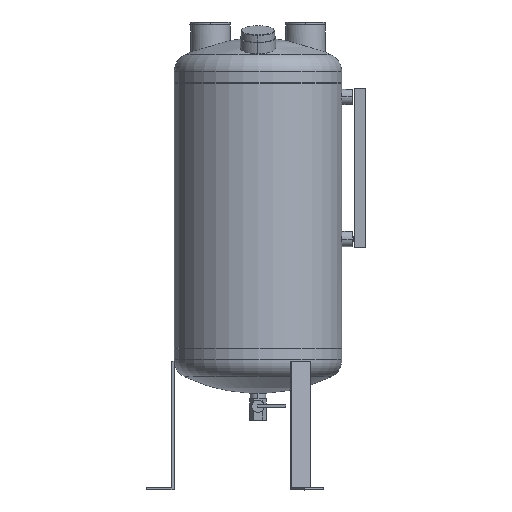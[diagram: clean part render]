
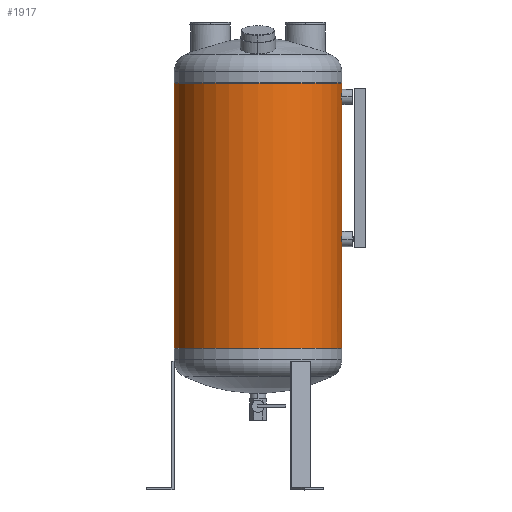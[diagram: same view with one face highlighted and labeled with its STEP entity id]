
A CAD part, top view. The second image highlights one B-rep face of the part: STEP entity #1917.
In plain terms, the highlighted cylindrical face has radius 150 mm (diameter 300 mm), a partial arc.
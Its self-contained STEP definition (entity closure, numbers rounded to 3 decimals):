
#159=CARTESIAN_POINT('',(150.,226.5,0.));
#160=CARTESIAN_POINT('',(150.,226.5,1.196));
#161=CARTESIAN_POINT('',(149.972,226.198,3.503));
#162=CARTESIAN_POINT('',(149.854,224.81,6.861));
#163=CARTESIAN_POINT('',(149.696,222.65,9.658));
#164=CARTESIAN_POINT('',(149.535,219.8,11.847));
#165=CARTESIAN_POINT('',(149.419,216.487,13.197));
#166=CARTESIAN_POINT('',(149.391,214.189,13.5));
#167=CARTESIAN_POINT('',(149.391,213.,13.5));
#169=CARTESIAN_POINT('',(149.391,213.,13.5));
#170=CARTESIAN_POINT('',(149.391,211.813,13.5));
#171=CARTESIAN_POINT('',(149.419,209.518,13.198));
#172=CARTESIAN_POINT('',(149.534,206.212,11.853));
#173=CARTESIAN_POINT('',(149.695,203.362,9.669));
#174=CARTESIAN_POINT('',(149.853,201.204,6.886));
#175=CARTESIAN_POINT('',(149.972,199.8,3.503));
#176=CARTESIAN_POINT('',(150.,199.5,1.195));
#177=CARTESIAN_POINT('',(150.,199.5,0.));
#179=CARTESIAN_POINT('',(150.,-27.5,0.));
#180=CARTESIAN_POINT('',(150.,-27.5,1.196));
#181=CARTESIAN_POINT('',(149.972,-27.802,3.503));
#182=CARTESIAN_POINT('',(149.854,-29.19,6.861));
#183=CARTESIAN_POINT('',(149.696,-31.35,9.658));
#184=CARTESIAN_POINT('',(149.535,-34.2,11.847));
#185=CARTESIAN_POINT('',(149.419,-37.513,13.197));
#186=CARTESIAN_POINT('',(149.391,-39.811,13.5));
#187=CARTESIAN_POINT('',(149.391,-41.,13.5));
#189=CARTESIAN_POINT('',(149.391,-41.,13.5));
#190=CARTESIAN_POINT('',(149.391,-42.187,13.5));
#191=CARTESIAN_POINT('',(149.419,-44.482,13.198));
#192=CARTESIAN_POINT('',(149.534,-47.788,11.853));
#193=CARTESIAN_POINT('',(149.695,-50.638,9.669));
#194=CARTESIAN_POINT('',(149.853,-52.796,6.886));
#195=CARTESIAN_POINT('',(149.972,-54.2,3.503));
#196=CARTESIAN_POINT('',(150.,-54.5,1.195));
#197=CARTESIAN_POINT('',(150.,-54.5,0.));
#199=CARTESIAN_POINT('',(0.,-236.75,0.));
#200=DIRECTION('',(0.,-1.,0.));
#201=DIRECTION('',(1.,0.,0.));
#202=AXIS2_PLACEMENT_3D('',#199,#200,#201);
#204=CARTESIAN_POINT('',(0.,-236.75,0.));
#205=DIRECTION('',(0.,-1.,0.));
#206=DIRECTION('',(0.,0.,1.));
#207=AXIS2_PLACEMENT_3D('',#204,#205,#206);
#209=CARTESIAN_POINT('',(0.,237.75,0.));
#210=DIRECTION('',(0.,-1.,0.));
#211=DIRECTION('',(0.,0.,1.));
#212=AXIS2_PLACEMENT_3D('',#209,#210,#211);
#214=CARTESIAN_POINT('',(0.,237.75,0.));
#215=DIRECTION('',(0.,-1.,0.));
#216=DIRECTION('',(1.,0.,0.));
#217=AXIS2_PLACEMENT_3D('',#214,#215,#216);
#345=DIRECTION('',(0.,1.,0.));
#346=VECTOR('',#345,11.25);
#347=CARTESIAN_POINT('',(150.,226.5,0.));
#348=LINE('',#347,#346);
#359=DIRECTION('',(0.,1.,0.));
#360=VECTOR('',#359,474.5);
#361=CARTESIAN_POINT('',(-150.,-236.75,0.));
#362=LINE('',#361,#360);
#373=DIRECTION('',(0.,1.,0.));
#374=VECTOR('',#373,182.25);
#375=CARTESIAN_POINT('',(150.,-236.75,0.));
#376=LINE('',#375,#374);
#397=DIRECTION('',(0.,1.,0.));
#398=VECTOR('',#397,227.);
#399=CARTESIAN_POINT('',(150.,-27.5,0.));
#400=LINE('',#399,#398);
#1642=VERTEX_POINT('',#159);
#1643=VERTEX_POINT('',#167);
#1644=VERTEX_POINT('',#177);
#1645=VERTEX_POINT('',#179);
#1646=VERTEX_POINT('',#187);
#1647=VERTEX_POINT('',#197);
#1734=CARTESIAN_POINT('',(0.,237.75,150.));
#1735=CARTESIAN_POINT('',(-150.,237.75,0.));
#1736=VERTEX_POINT('',#1734);
#1737=VERTEX_POINT('',#1735);
#1738=CARTESIAN_POINT('',(0.,-236.75,150.));
#1739=CARTESIAN_POINT('',(-150.,-236.75,0.));
#1740=VERTEX_POINT('',#1738);
#1741=VERTEX_POINT('',#1739);
#1748=CARTESIAN_POINT('',(150.,237.75,0.));
#1749=VERTEX_POINT('',#1748);
#1750=CARTESIAN_POINT('',(150.,-236.75,0.));
#1751=VERTEX_POINT('',#1750);
#1886=CARTESIAN_POINT('',(0.,349.75,0.));
#1887=DIRECTION('',(0.,-1.,0.));
#1888=DIRECTION('',(-1.,0.,0.));
#1889=AXIS2_PLACEMENT_3D('',#1886,#1887,#1888);
#1890=CYLINDRICAL_SURFACE('',#1889,150.);
#1892=ORIENTED_EDGE('',*,*,#1891,.T.);
#1894=ORIENTED_EDGE('',*,*,#1893,.T.);
#1896=ORIENTED_EDGE('',*,*,#1895,.F.);
#1898=ORIENTED_EDGE('',*,*,#1897,.T.);
#1900=ORIENTED_EDGE('',*,*,#1899,.T.);
#1902=ORIENTED_EDGE('',*,*,#1901,.F.);
#1904=ORIENTED_EDGE('',*,*,#1903,.T.);
#1906=ORIENTED_EDGE('',*,*,#1905,.T.);
#1908=ORIENTED_EDGE('',*,*,#1907,.T.);
#1910=ORIENTED_EDGE('',*,*,#1909,.F.);
#1912=ORIENTED_EDGE('',*,*,#1911,.F.);
#1914=ORIENTED_EDGE('',*,*,#1913,.F.);
#1915=EDGE_LOOP('',(#1892,#1894,#1896,#1898,#1900,#1902,#1904,#1906,#1908,#1910,
#1912,#1914));
#1916=FACE_OUTER_BOUND('',#1915,.F.);
#168=B_SPLINE_CURVE_WITH_KNOTS('',3,(#159,#160,#161,#162,#163,#164,#165,#166,
#167),.UNSPECIFIED.,.F.,.F.,(4,1,1,1,1,1,4),(0.,0.167,
0.333,0.5,0.667,0.833,1.),
.UNSPECIFIED.);
#178=B_SPLINE_CURVE_WITH_KNOTS('',3,(#169,#170,#171,#172,#173,#174,#175,#176,
#177),.UNSPECIFIED.,.F.,.F.,(4,1,1,1,1,1,4),(0.,0.167,
0.333,0.5,0.667,0.833,1.),
.UNSPECIFIED.);
#188=B_SPLINE_CURVE_WITH_KNOTS('',3,(#179,#180,#181,#182,#183,#184,#185,#186,
#187),.UNSPECIFIED.,.F.,.F.,(4,1,1,1,1,1,4),(0.,0.167,
0.333,0.5,0.667,0.833,1.),
.UNSPECIFIED.);
#198=B_SPLINE_CURVE_WITH_KNOTS('',3,(#189,#190,#191,#192,#193,#194,#195,#196,
#197),.UNSPECIFIED.,.F.,.F.,(4,1,1,1,1,1,4),(0.,0.167,
0.333,0.5,0.667,0.833,1.),
.UNSPECIFIED.);
#203=CIRCLE('',#202,150.);
#208=CIRCLE('',#207,150.);
#213=CIRCLE('',#212,150.);
#218=CIRCLE('',#217,150.);
#1891=EDGE_CURVE('',#1642,#1643,#168,.T.);
#1893=EDGE_CURVE('',#1643,#1644,#178,.T.);
#1895=EDGE_CURVE('',#1645,#1644,#400,.T.);
#1897=EDGE_CURVE('',#1645,#1646,#188,.T.);
#1899=EDGE_CURVE('',#1646,#1647,#198,.T.);
#1901=EDGE_CURVE('',#1751,#1647,#376,.T.);
#1903=EDGE_CURVE('',#1751,#1740,#203,.T.);
#1905=EDGE_CURVE('',#1740,#1741,#208,.T.);
#1907=EDGE_CURVE('',#1741,#1737,#362,.T.);
#1909=EDGE_CURVE('',#1736,#1737,#213,.T.);
#1911=EDGE_CURVE('',#1749,#1736,#218,.T.);
#1913=EDGE_CURVE('',#1642,#1749,#348,.T.);
#1917=ADVANCED_FACE('',(#1916),#1890,.T.);
